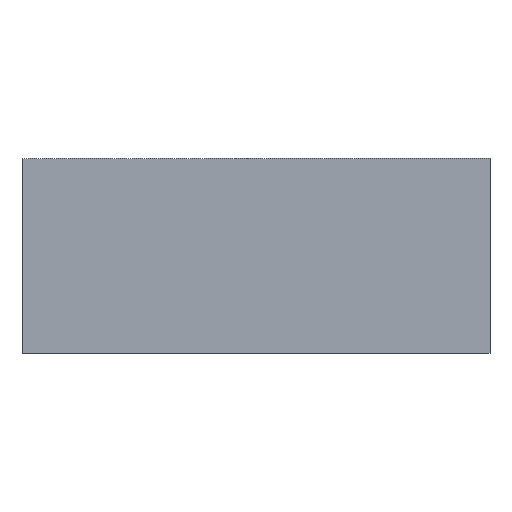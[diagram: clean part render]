
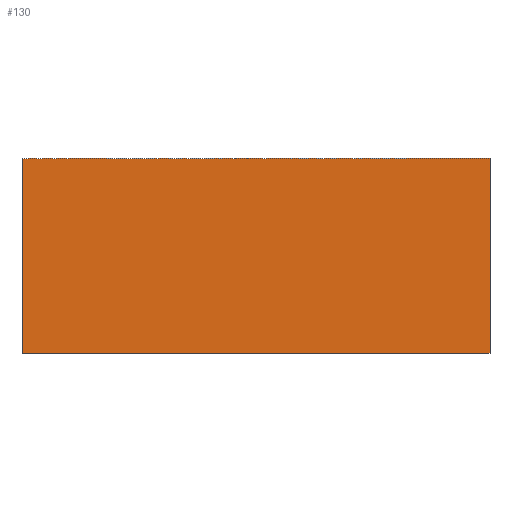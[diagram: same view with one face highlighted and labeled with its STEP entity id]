
A CAD part, front view. The second image highlights one B-rep face of the part: STEP entity #130.
In plain terms, the highlighted planar face has unit normal (0, -1, 0).
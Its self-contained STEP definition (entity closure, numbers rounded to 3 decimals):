
#130=ADVANCED_FACE('',(#222),#224,.F.);
#222=FACE_BOUND('',#223,.T.);
#223=EDGE_LOOP('',(#294,#295,#296,#297));
#224=PLANE('',#225);
#225=AXIS2_PLACEMENT_3D('',#226,#227,#228);
#226=CARTESIAN_POINT('',(0.,-1.,0.));
#227=DIRECTION('',(0.,1.,0.));
#228=DIRECTION('',(-1.,0.,0.));
#294=ORIENTED_EDGE('',*,*,#323,.F.);
#295=ORIENTED_EDGE('',*,*,#316,.F.);
#296=ORIENTED_EDGE('',*,*,#310,.F.);
#297=ORIENTED_EDGE('',*,*,#339,.F.);
#310=EDGE_CURVE('',#340,#341,#342,.T.);
#316=EDGE_CURVE('',#341,#352,#353,.T.);
#323=EDGE_CURVE('',#352,#365,#366,.T.);
#339=EDGE_CURVE('',#365,#340,#389,.T.);
#340=VERTEX_POINT('',#390);
#341=VERTEX_POINT('',#391);
#342=LINE('',#392,#393);
#352=VERTEX_POINT('',#414);
#353=LINE('',#415,#416);
#365=VERTEX_POINT('',#441);
#366=LINE('',#442,#443);
#389=LINE('',#497,#498);
#390=CARTESIAN_POINT('',(24.,-1.,20.));
#391=CARTESIAN_POINT('',(24.,-1.,0.));
#392=CARTESIAN_POINT('',(24.,-1.,20.));
#393=VECTOR('',#394,1.);
#394=DIRECTION('',(0.,0.,-1.));
#414=CARTESIAN_POINT('',(-24.,-1.,0.));
#415=CARTESIAN_POINT('',(24.,-1.,0.));
#416=VECTOR('',#417,1.);
#417=DIRECTION('',(-1.,0.,0.));
#441=CARTESIAN_POINT('',(-24.,-1.,20.));
#442=CARTESIAN_POINT('',(-24.,-1.,0.));
#443=VECTOR('',#444,1.);
#444=DIRECTION('',(0.,0.,1.));
#497=CARTESIAN_POINT('',(-24.,-1.,20.));
#498=VECTOR('',#499,1.);
#499=DIRECTION('',(1.,0.,0.));
